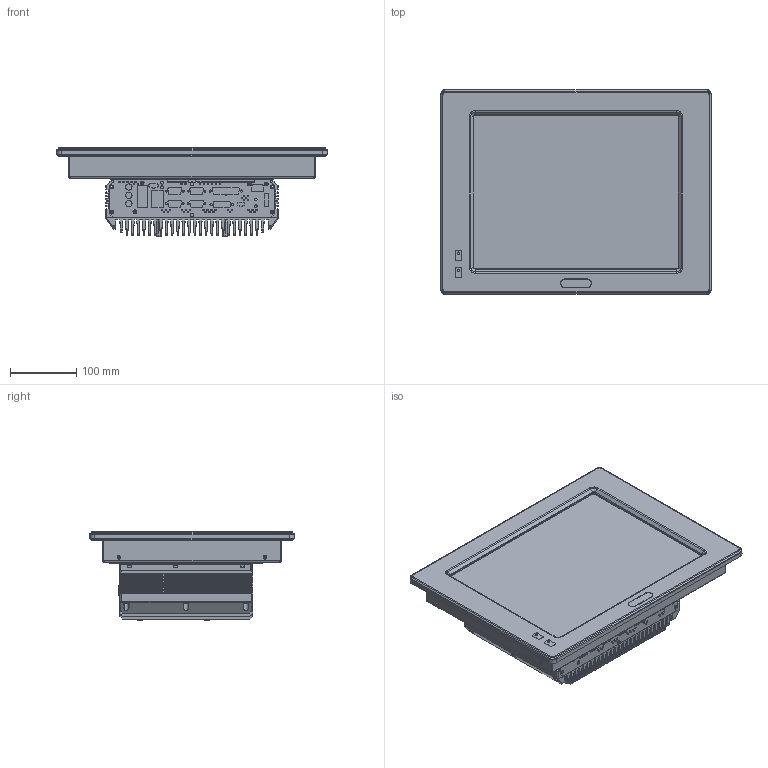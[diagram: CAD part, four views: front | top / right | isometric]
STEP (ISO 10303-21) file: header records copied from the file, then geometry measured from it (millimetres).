
FILE_DESCRIPTION (( 'STEP AP214' ), '1' );
FILE_NAME ('PC2315B.STEP', '2020-07-16T20:48:23', ( '' ), ( '' ), 'SwSTEP 2.0', 'SolidWorks 2019', '' );
FILE_SCHEMA (( 'AUTOMOTIVE_DESIGN' ));
Length unit declared in the file: inch
Products named in the file (1): PC2315B
Bounding box: 408 x 308 x 133.1 mm (x, y, z)
Surface area: 926998.1 mm2 (no closed solid volume)
Topology: 0 solids, 100 shells, 2607 faces, 10922 edges, 8105 vertices
Faces by surface type: cylinder 1561, plane 868, cone 89, bspline 87, torus 2
Entity records: 167978 total; most frequent: CARTESIAN_POINT 53462, ORIENTED_EDGE 17165, DIRECTION 13409, EDGE_CURVE 10922, VERTEX_POINT 8105, AXIS2_PLACEMENT_3D 4680, B_SPLINE_CURVE_WITH_KNOTS 4571, VECTOR 4049
